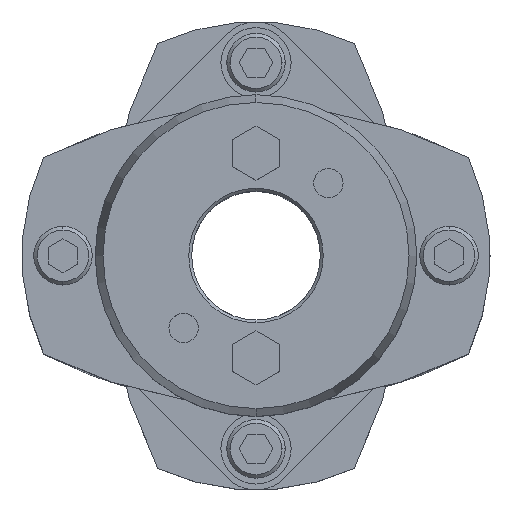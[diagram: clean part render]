
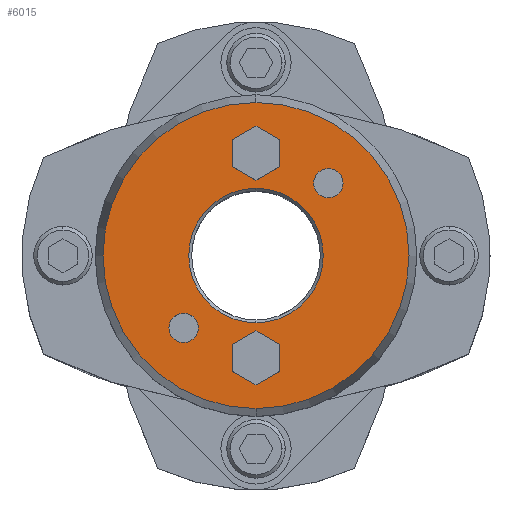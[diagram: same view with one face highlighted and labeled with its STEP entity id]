
A CAD part, top view. The second image highlights one B-rep face of the part: STEP entity #6015.
In plain terms, the highlighted planar face has unit normal (0, 0, 1).
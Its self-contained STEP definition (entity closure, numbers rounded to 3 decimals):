
#1677=CARTESIAN_POINT('',(0.,11.5,45.25));
#1678=VERTEX_POINT('',#1677);
#1694=CARTESIAN_POINT('',(0.,-11.5,45.25));
#1695=VERTEX_POINT('',#1694);
#1702=CARTESIAN_POINT('',(0.,0.,45.25));
#1703=DIRECTION('',(0.0,0.0,1.0));
#1704=DIRECTION('',(0.,1.0,0.0));
#1705=AXIS2_PLACEMENT_3D('',#1702,#1703,#1704);
#1706=CIRCLE('',#1705,11.5);
#1707=EDGE_CURVE('',#1695,#1678,#1706,.T.);
#1865=CARTESIAN_POINT('',(0.,-26.16,45.25));
#1866=VERTEX_POINT('',#1865);
#1873=CARTESIAN_POINT('',(0.,26.16,45.25));
#1874=VERTEX_POINT('',#1873);
#1875=CARTESIAN_POINT('',(0.,0.,45.25));
#1876=DIRECTION('',(0.0,0.0,-1.0));
#1877=DIRECTION('',(0.,-1.0,0.0));
#1878=AXIS2_PLACEMENT_3D('',#1875,#1876,#1877);
#1879=CIRCLE('',#1878,26.16);
#1880=EDGE_CURVE('',#1866,#1874,#1879,.T.);
#1975=CARTESIAN_POINT('',(12.374,14.874,45.25));
#1976=VERTEX_POINT('',#1975);
#1992=CARTESIAN_POINT('',(12.374,9.874,45.25));
#1993=VERTEX_POINT('',#1992);
#2000=CARTESIAN_POINT('',(12.374,12.374,45.25));
#2001=DIRECTION('',(0.0,0.0,-1.0));
#2002=DIRECTION('',(0.,1.0,0.0));
#2003=AXIS2_PLACEMENT_3D('',#2000,#2001,#2002);
#2004=CIRCLE('',#2003,2.5);
#2005=EDGE_CURVE('',#1976,#1993,#2004,.T.);
#2017=CARTESIAN_POINT('',(-12.374,-9.874,45.25));
#2018=VERTEX_POINT('',#2017);
#2034=CARTESIAN_POINT('',(-12.374,-14.874,45.25));
#2035=VERTEX_POINT('',#2034);
#2042=CARTESIAN_POINT('',(-12.374,-12.374,45.25));
#2043=DIRECTION('',(0.0,0.0,-1.0));
#2044=DIRECTION('',(0.,1.0,0.0));
#2045=AXIS2_PLACEMENT_3D('',#2042,#2043,#2044);
#2046=CIRCLE('',#2045,2.5);
#2047=EDGE_CURVE('',#2018,#2035,#2046,.T.);
#5259=CARTESIAN_POINT('',(0.,22.119,45.25));
#5260=VERTEX_POINT('',#5259);
#5267=CARTESIAN_POINT('',(-4.,19.809,45.25));
#5268=VERTEX_POINT('',#5267);
#5269=CARTESIAN_POINT('',(-4.,19.809,45.25));
#5270=DIRECTION('',(0.866,0.5,0.0));
#5271=VECTOR('',#5270,4.619);
#5272=LINE('',#5269,#5271);
#5273=EDGE_CURVE('',#5268,#5260,#5272,.T.);
#5297=CARTESIAN_POINT('',(4.,19.809,45.25));
#5298=VERTEX_POINT('',#5297);
#5305=CARTESIAN_POINT('',(0.,22.119,45.25));
#5306=DIRECTION('',(0.866,-0.5,0.0));
#5307=VECTOR('',#5306,4.619);
#5308=LINE('',#5305,#5307);
#5309=EDGE_CURVE('',#5260,#5298,#5308,.T.);
#5328=CARTESIAN_POINT('',(4.,15.191,45.25));
#5329=VERTEX_POINT('',#5328);
#5336=CARTESIAN_POINT('',(4.,19.809,45.25));
#5337=DIRECTION('',(0.,-1.0,0.0));
#5338=VECTOR('',#5337,4.619);
#5339=LINE('',#5336,#5338);
#5340=EDGE_CURVE('',#5298,#5329,#5339,.T.);
#5359=CARTESIAN_POINT('',(0.,12.881,45.25));
#5360=VERTEX_POINT('',#5359);
#5367=CARTESIAN_POINT('',(4.,15.191,45.25));
#5368=DIRECTION('',(-0.866,-0.5,0.0));
#5369=VECTOR('',#5368,4.619);
#5370=LINE('',#5367,#5369);
#5371=EDGE_CURVE('',#5329,#5360,#5370,.T.);
#5390=CARTESIAN_POINT('',(-4.,15.191,45.25));
#5391=VERTEX_POINT('',#5390);
#5398=CARTESIAN_POINT('',(0.,12.881,45.25));
#5399=DIRECTION('',(-0.866,0.5,0.0));
#5400=VECTOR('',#5399,4.619);
#5401=LINE('',#5398,#5400);
#5402=EDGE_CURVE('',#5360,#5391,#5401,.T.);
#5420=CARTESIAN_POINT('',(-4.,15.191,45.25));
#5421=DIRECTION('',(0.,1.0,0.0));
#5422=VECTOR('',#5421,4.619);
#5423=LINE('',#5420,#5422);
#5424=EDGE_CURVE('',#5391,#5268,#5423,.T.);
#5459=CARTESIAN_POINT('',(0.,-12.881,45.25));
#5460=VERTEX_POINT('',#5459);
#5467=CARTESIAN_POINT('',(-4.,-15.191,45.25));
#5468=VERTEX_POINT('',#5467);
#5469=CARTESIAN_POINT('',(-4.,-15.191,45.25));
#5470=DIRECTION('',(0.866,0.5,0.0));
#5471=VECTOR('',#5470,4.619);
#5472=LINE('',#5469,#5471);
#5473=EDGE_CURVE('',#5468,#5460,#5472,.T.);
#5497=CARTESIAN_POINT('',(4.,-15.191,45.25));
#5498=VERTEX_POINT('',#5497);
#5505=CARTESIAN_POINT('',(0.,-12.881,45.25));
#5506=DIRECTION('',(0.866,-0.5,0.0));
#5507=VECTOR('',#5506,4.619);
#5508=LINE('',#5505,#5507);
#5509=EDGE_CURVE('',#5460,#5498,#5508,.T.);
#5528=CARTESIAN_POINT('',(4.,-19.809,45.25));
#5529=VERTEX_POINT('',#5528);
#5536=CARTESIAN_POINT('',(4.,-15.191,45.25));
#5537=DIRECTION('',(0.,-1.0,0.0));
#5538=VECTOR('',#5537,4.619);
#5539=LINE('',#5536,#5538);
#5540=EDGE_CURVE('',#5498,#5529,#5539,.T.);
#5559=CARTESIAN_POINT('',(0.,-22.119,45.25));
#5560=VERTEX_POINT('',#5559);
#5567=CARTESIAN_POINT('',(4.,-19.809,45.25));
#5568=DIRECTION('',(-0.866,-0.5,0.0));
#5569=VECTOR('',#5568,4.619);
#5570=LINE('',#5567,#5569);
#5571=EDGE_CURVE('',#5529,#5560,#5570,.T.);
#5590=CARTESIAN_POINT('',(-4.,-19.809,45.25));
#5591=VERTEX_POINT('',#5590);
#5598=CARTESIAN_POINT('',(0.,-22.119,45.25));
#5599=DIRECTION('',(-0.866,0.5,0.0));
#5600=VECTOR('',#5599,4.619);
#5601=LINE('',#5598,#5600);
#5602=EDGE_CURVE('',#5560,#5591,#5601,.T.);
#5620=CARTESIAN_POINT('',(-4.,-19.809,45.25));
#5621=DIRECTION('',(0.,1.0,0.0));
#5622=VECTOR('',#5621,4.619);
#5623=LINE('',#5620,#5622);
#5624=EDGE_CURVE('',#5591,#5468,#5623,.T.);
#5650=CARTESIAN_POINT('',(-12.374,-12.374,45.25));
#5651=DIRECTION('',(0.0,0.0,-1.0));
#5652=DIRECTION('',(0.,1.0,0.0));
#5653=AXIS2_PLACEMENT_3D('',#5650,#5651,#5652);
#5654=CIRCLE('',#5653,2.5);
#5655=EDGE_CURVE('',#2035,#2018,#5654,.T.);
#5684=CARTESIAN_POINT('',(12.374,12.374,45.25));
#5685=DIRECTION('',(0.0,0.0,-1.0));
#5686=DIRECTION('',(0.,1.0,0.0));
#5687=AXIS2_PLACEMENT_3D('',#5684,#5685,#5686);
#5688=CIRCLE('',#5687,2.5);
#5689=EDGE_CURVE('',#1993,#1976,#5688,.T.);
#5962=CARTESIAN_POINT('',(0.,0.,45.25));
#5963=DIRECTION('',(0.0,0.0,-1.0));
#5964=DIRECTION('',(0.,-1.0,0.0));
#5965=AXIS2_PLACEMENT_3D('',#5962,#5963,#5964);
#5966=CIRCLE('',#5965,26.16);
#5967=EDGE_CURVE('',#1874,#1866,#5966,.T.);
#5972=CARTESIAN_POINT('',(0.,2.364,45.25));
#5973=DIRECTION('',(0.0,0.0,1.0));
#5974=DIRECTION('',(0.,1.0,0.0));
#5975=AXIS2_PLACEMENT_3D('',#5972,#5973,#5974);
#5976=PLANE('',#5975);
#5977=ORIENTED_EDGE('',*,*,#5967,.F.);
#5978=ORIENTED_EDGE('',*,*,#1880,.F.);
#5979=EDGE_LOOP('',(#5977,#5978));
#5980=FACE_OUTER_BOUND('',#5979,.T.);
#5981=ORIENTED_EDGE('',*,*,#5273,.T.);
#5982=ORIENTED_EDGE('',*,*,#5309,.T.);
#5983=ORIENTED_EDGE('',*,*,#5340,.T.);
#5984=ORIENTED_EDGE('',*,*,#5371,.T.);
#5985=ORIENTED_EDGE('',*,*,#5402,.T.);
#5986=ORIENTED_EDGE('',*,*,#5424,.T.);
#5987=EDGE_LOOP('',(#5981,#5982,#5983,#5984,#5985,#5986));
#5988=FACE_BOUND('',#5987,.T.);
#5989=ORIENTED_EDGE('',*,*,#5473,.T.);
#5990=ORIENTED_EDGE('',*,*,#5509,.T.);
#5991=ORIENTED_EDGE('',*,*,#5540,.T.);
#5992=ORIENTED_EDGE('',*,*,#5571,.T.);
#5993=ORIENTED_EDGE('',*,*,#5602,.T.);
#5994=ORIENTED_EDGE('',*,*,#5624,.T.);
#5995=EDGE_LOOP('',(#5989,#5990,#5991,#5992,#5993,#5994));
#5996=FACE_BOUND('',#5995,.T.);
#5997=ORIENTED_EDGE('',*,*,#2047,.T.);
#5998=ORIENTED_EDGE('',*,*,#5655,.T.);
#5999=EDGE_LOOP('',(#5997,#5998));
#6000=FACE_BOUND('',#5999,.T.);
#6001=ORIENTED_EDGE('',*,*,#2005,.T.);
#6002=ORIENTED_EDGE('',*,*,#5689,.T.);
#6003=EDGE_LOOP('',(#6001,#6002));
#6004=FACE_BOUND('',#6003,.T.);
#6005=ORIENTED_EDGE('',*,*,#1707,.F.);
#6006=CARTESIAN_POINT('',(0.,0.,45.25));
#6007=DIRECTION('',(0.0,0.0,1.0));
#6008=DIRECTION('',(0.,1.0,0.0));
#6009=AXIS2_PLACEMENT_3D('',#6006,#6007,#6008);
#6010=CIRCLE('',#6009,11.5);
#6011=EDGE_CURVE('',#1678,#1695,#6010,.T.);
#6012=ORIENTED_EDGE('',*,*,#6011,.F.);
#6013=EDGE_LOOP('',(#6005,#6012));
#6014=FACE_BOUND('',#6013,.T.);
#6015=ADVANCED_FACE('',(#5980,#5988,#5996,#6000,#6004,#6014),#5976,.T.);
